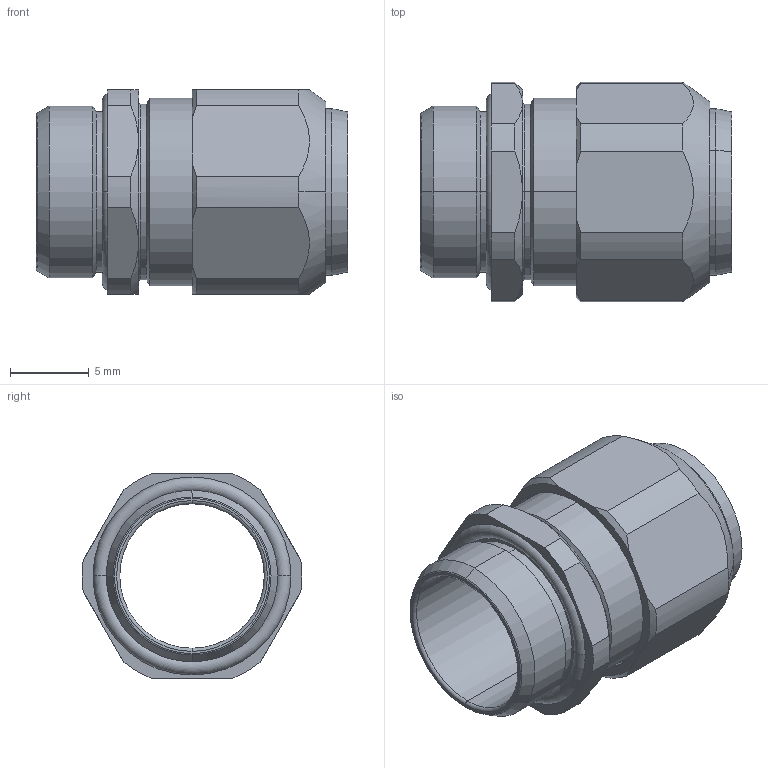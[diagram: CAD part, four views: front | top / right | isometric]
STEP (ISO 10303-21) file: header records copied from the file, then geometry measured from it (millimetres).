
FILE_DESCRIPTION(('Creo Elements/Direct Modeling STEP Export'),'2;1');
FILE_NAME('H20-0013-CL901-00_OA-WS11M-75／90.stp','2021-10-19T11:19:50',(''),(''),'Creo Elements/Direct Modeling STEP processor for AP214 (Solid Model)','Creo Elements/Direct Modeling 20.3B 05-Dec-2020 (C) Parametric Technology GmbH','');
FILE_SCHEMA(('AUTOMOTIVE_DESIGN { 1 0 10303 214 1 1 1 1 }'));
Length unit declared in the file: millimetre
Products named in the file (3): H20-0013-CL901-00_OA-WS11-34910.PRT; H20-0013-CL901-00_OA-WS11-35240.ASM; H20-0013-CL901-00_OA-WS11M-75_.stp
Assembly tree (2 placements, depth 3):
  H20-0013-CL901-00_OA-WS11M-75_.stp
    H20-0013-CL901-00_OA-WS11-35240.ASM
      H20-0013-CL901-00_OA-WS11-34910.PRT
Bounding box: 19.8 x 14 x 13 mm (x, y, z)
Volume: 1044.1 mm3; surface area: 1680.9 mm2
Topology: 1 solids, 1 shells, 116 faces, 274 edges, 172 vertices
Faces by surface type: cylinder 42, plane 26, torus 26, cone 22
Entity records: 3331 total; most frequent: CARTESIAN_POINT 701, ORIENTED_EDGE 548, DIRECTION 532, EDGE_CURVE 274, AXIS2_PLACEMENT_3D 228, VERTEX_POINT 172, EDGE_LOOP 130, FACE_OUTER_BOUND 116
